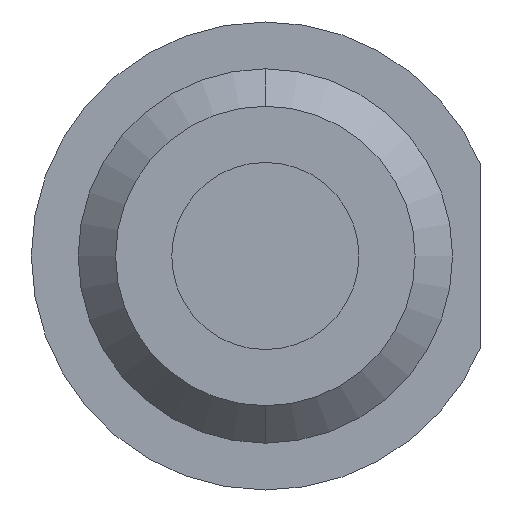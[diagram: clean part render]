
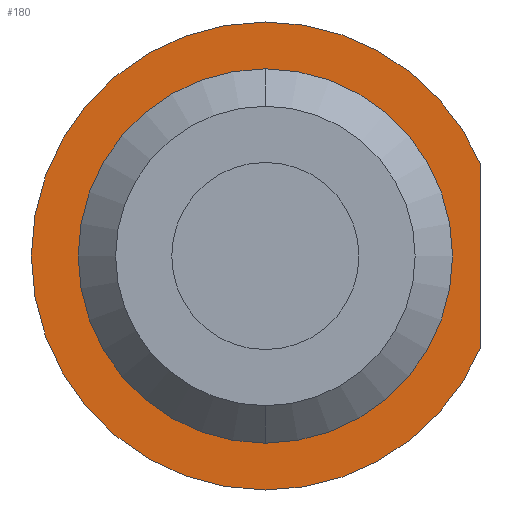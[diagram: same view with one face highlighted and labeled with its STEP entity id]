
A CAD part, front view. The second image highlights one B-rep face of the part: STEP entity #180.
In plain terms, the highlighted planar face has unit normal (0, -1, 0).
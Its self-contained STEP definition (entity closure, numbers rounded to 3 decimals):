
#3 = CIRCLE ( 'NONE', #174, 0.75 ) ;
#20 = VERTEX_POINT ( 'NONE', #362 ) ;
#21 = CIRCLE ( 'NONE', #375, 1.25 ) ;
#26 = ORIENTED_EDGE ( 'NONE', *, *, #400, .F. ) ;
#29 = EDGE_CURVE ( 'NONE', #34, #161, #76, .T. ) ;
#34 = VERTEX_POINT ( 'NONE', #364 ) ;
#72 = DIRECTION ( 'NONE',  ( 0., 1., 0. ) ) ;
#75 = DIRECTION ( 'NONE',  ( 0., 1., 0. ) ) ;
#76 = CIRCLE ( 'NONE', #526, 1.25 ) ;
#84 = CARTESIAN_POINT ( 'NONE',  ( 0., 0., 0. ) ) ;
#98 = CARTESIAN_POINT ( 'NONE',  ( 1.15, 0., 0.49 ) ) ;
#108 = FACE_BOUND ( 'NONE', #389, .T. ) ;
#118 = EDGE_CURVE ( 'NONE', #368, #135, #598, .T. ) ;
#119 = AXIS2_PLACEMENT_3D ( 'NONE', #225, #75, #127 ) ;
#125 = CARTESIAN_POINT ( 'NONE',  ( 0., 0., -1.25 ) ) ;
#127 = DIRECTION ( 'NONE',  ( 0., 0., 1. ) ) ;
#135 = VERTEX_POINT ( 'NONE', #125 ) ;
#139 = AXIS2_PLACEMENT_3D ( 'NONE', #84, #413, #227 ) ;
#142 = CARTESIAN_POINT ( 'NONE',  ( 1.15, 0., -0.49 ) ) ;
#146 = LINE ( 'NONE', #98, #416 ) ;
#161 = VERTEX_POINT ( 'NONE', #459 ) ;
#174 = AXIS2_PLACEMENT_3D ( 'NONE', #274, #309, #493 ) ;
#180 = ADVANCED_FACE ( 'NONE', ( #108, #370 ), #561, .F. ) ;
#197 = DIRECTION ( 'NONE',  ( 0., 0., 1. ) ) ;
#205 = VERTEX_POINT ( 'NONE', #513 ) ;
#207 = DIRECTION ( 'NONE',  ( 0., 1., 0. ) ) ;
#220 = EDGE_LOOP ( 'NONE', ( #593, #26, #499, #278 ) ) ;
#225 = CARTESIAN_POINT ( 'NONE',  ( 0., 0., 0. ) ) ;
#227 = DIRECTION ( 'NONE',  ( 0., 0., 1. ) ) ;
#244 = CIRCLE ( 'NONE', #315, 0.75 ) ;
#262 = DIRECTION ( 'NONE',  ( 0., 0., 1. ) ) ;
#267 = EDGE_CURVE ( 'NONE', #205, #20, #244, .T. ) ;
#274 = CARTESIAN_POINT ( 'NONE',  ( 0., 0., 0. ) ) ;
#278 = ORIENTED_EDGE ( 'NONE', *, *, #289, .F. ) ;
#289 = EDGE_CURVE ( 'NONE', #135, #34, #21, .T. ) ;
#306 = DIRECTION ( 'NONE',  ( 0., -1., 0. ) ) ;
#309 = DIRECTION ( 'NONE',  ( 0., -1., 0. ) ) ;
#315 = AXIS2_PLACEMENT_3D ( 'NONE', #522, #306, #197 ) ;
#322 = DIRECTION ( 'NONE',  ( 0., 0., 1. ) ) ;
#331 = ORIENTED_EDGE ( 'NONE', *, *, #267, .F. ) ;
#362 = CARTESIAN_POINT ( 'NONE',  ( 0., 0., 0.75 ) ) ;
#364 = CARTESIAN_POINT ( 'NONE',  ( 0., 0., 1.25 ) ) ;
#368 = VERTEX_POINT ( 'NONE', #142 ) ;
#370 = FACE_OUTER_BOUND ( 'NONE', #220, .T. ) ;
#375 = AXIS2_PLACEMENT_3D ( 'NONE', #532, #207, #262 ) ;
#376 = DIRECTION ( 'NONE',  ( 0., 0., -1. ) ) ;
#389 = EDGE_LOOP ( 'NONE', ( #517, #331 ) ) ;
#400 = EDGE_CURVE ( 'NONE', #161, #368, #146, .T. ) ;
#413 = DIRECTION ( 'NONE',  ( 0., 1., 0. ) ) ;
#416 = VECTOR ( 'NONE', #376, 1000. ) ;
#422 = CARTESIAN_POINT ( 'NONE',  ( 0., 0., 0. ) ) ;
#430 = EDGE_CURVE ( 'NONE', #20, #205, #3, .T. ) ;
#459 = CARTESIAN_POINT ( 'NONE',  ( 1.15, 0., 0.49 ) ) ;
#493 = DIRECTION ( 'NONE',  ( 0., 0., 1. ) ) ;
#499 = ORIENTED_EDGE ( 'NONE', *, *, #29, .F. ) ;
#513 = CARTESIAN_POINT ( 'NONE',  ( 0., 0., -0.75 ) ) ;
#517 = ORIENTED_EDGE ( 'NONE', *, *, #430, .F. ) ;
#522 = CARTESIAN_POINT ( 'NONE',  ( 0., 0., 0. ) ) ;
#526 = AXIS2_PLACEMENT_3D ( 'NONE', #422, #72, #322 ) ;
#532 = CARTESIAN_POINT ( 'NONE',  ( 0., 0., 0. ) ) ;
#561 = PLANE ( 'NONE',  #119 ) ;
#593 = ORIENTED_EDGE ( 'NONE', *, *, #118, .F. ) ;
#598 = CIRCLE ( 'NONE', #139, 1.25 ) ;
